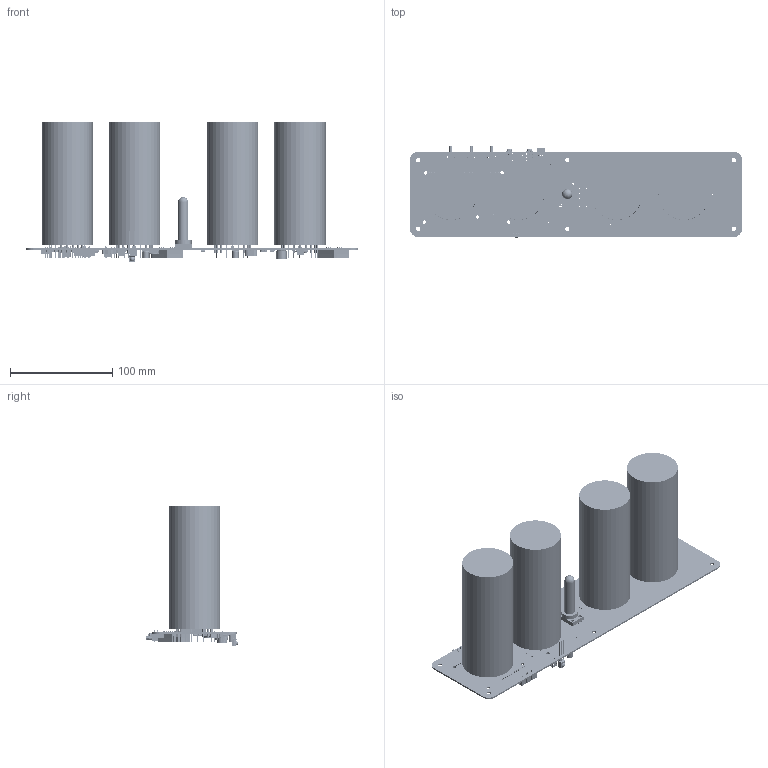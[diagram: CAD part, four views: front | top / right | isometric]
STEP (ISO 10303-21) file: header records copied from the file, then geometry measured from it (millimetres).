
FILE_DESCRIPTION(('Open CASCADE Model'),'2;1');
FILE_NAME('Open CASCADE Shape Model','2019-07-30T02:00:37',('Author'),( 'Open CASCADE'),'Open CASCADE STEP processor 6.8','Open CASCADE 6.8' ,'Unknown');
FILE_SCHEMA(('AUTOMOTIVE_DESIGN { 1 0 10303 214 1 1 1 1 }'));
Length unit declared in the file: millimetre
Products named in the file (1): PCB
Bounding box: 325 x 90.11 x 136.7 mm (x, y, z)
Volume: 998008.7 mm3; surface area: 177564.8 mm2
Topology: 158 solids, 4982 shells, 12203 faces, 42979 edges, 35940 vertices
Faces by surface type: plane 7229, cylinder 3784, bspline 925, sphere 210, cone 45, torus 10
Full cylindrical faces by diameter (mm): 0.8 x13, 0.9 x148, 1 x16, 1.1 x9, 1.3 x18, 1.4 x1, 1.5 x4, 1.93 x68, 3.3 x7, 4.3 x6, 50 x4
Entity records: 537014 total; most frequent: CARTESIAN_POINT 136072, DIRECTION 72117, ORIENTED_EDGE 60925, EDGE_CURVE 42602, VERTEX_POINT 35940, LINE 30331, VECTOR 30331, AXIS2_PLACEMENT_3D 20893
